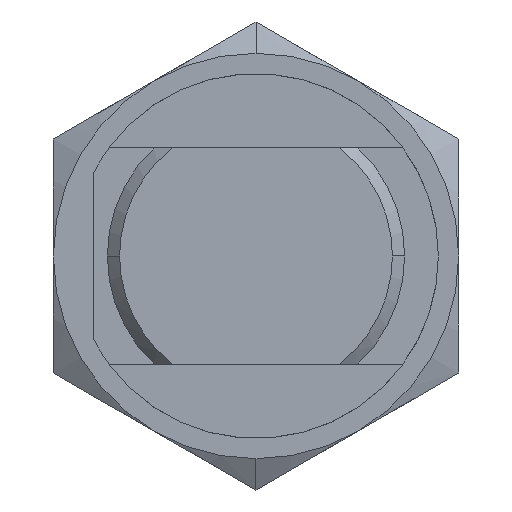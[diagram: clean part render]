
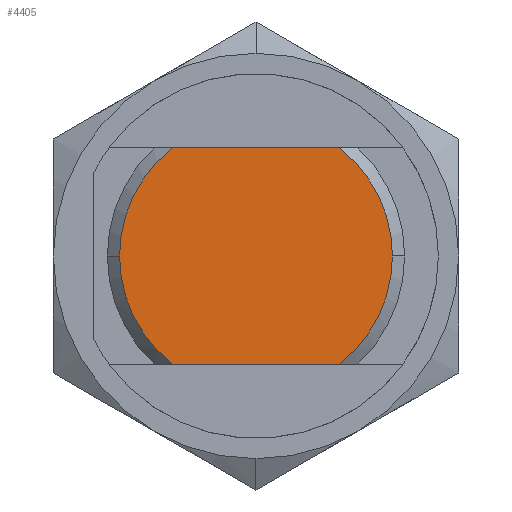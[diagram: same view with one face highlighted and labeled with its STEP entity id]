
A CAD part, front view. The second image highlights one B-rep face of the part: STEP entity #4405.
In plain terms, the highlighted planar face has unit normal (0, -1, 0).
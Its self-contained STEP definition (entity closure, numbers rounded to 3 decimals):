
#3525=CARTESIAN_POINT('',(10.1,0.0,0.));
#3526=VERTEX_POINT('',#3525);
#3533=CARTESIAN_POINT('',(6.165,0.,-8.0));
#3534=VERTEX_POINT('',#3533);
#3535=CARTESIAN_POINT('',(0.0,0.0,0.0));
#3536=DIRECTION('',(0.0,1.0,0.0));
#3537=DIRECTION('',(1.0,0.0,0.0));
#3538=AXIS2_PLACEMENT_3D('',#3535,#3536,#3537);
#3539=CIRCLE('',#3538,10.1);
#3540=EDGE_CURVE('',#3526,#3534,#3539,.T.);
#3614=CARTESIAN_POINT('',(-10.1,0.0,0.));
#3615=VERTEX_POINT('',#3614);
#3622=CARTESIAN_POINT('',(-6.165,0.,8.0));
#3623=VERTEX_POINT('',#3622);
#3624=CARTESIAN_POINT('',(0.0,0.0,0.0));
#3625=DIRECTION('',(0.0,1.0,0.0));
#3626=DIRECTION('',(-1.0,0.0,0.0));
#3627=AXIS2_PLACEMENT_3D('',#3624,#3625,#3626);
#3628=CIRCLE('',#3627,10.1);
#3629=EDGE_CURVE('',#3615,#3623,#3628,.T.);
#3663=CARTESIAN_POINT('',(-6.165,0.,-8.0));
#3664=VERTEX_POINT('',#3663);
#3678=CARTESIAN_POINT('',(0.0,0.0,0.0));
#3679=DIRECTION('',(0.0,1.0,0.0));
#3680=DIRECTION('',(-1.0,0.0,0.0));
#3681=AXIS2_PLACEMENT_3D('',#3678,#3679,#3680);
#3682=CIRCLE('',#3681,10.1);
#3683=EDGE_CURVE('',#3664,#3615,#3682,.T.);
#3719=CARTESIAN_POINT('',(6.165,0.,8.0));
#3720=VERTEX_POINT('',#3719);
#3721=CARTESIAN_POINT('',(6.165,0.,8.0));
#3722=DIRECTION('',(-1.0,0.0,0.0));
#3723=VECTOR('',#3722,12.33);
#3724=LINE('',#3721,#3723);
#3725=EDGE_CURVE('',#3720,#3623,#3724,.T.);
#3783=CARTESIAN_POINT('',(0.0,0.0,0.0));
#3784=DIRECTION('',(0.0,1.0,0.0));
#3785=DIRECTION('',(1.0,0.0,0.0));
#3786=AXIS2_PLACEMENT_3D('',#3783,#3784,#3785);
#3787=CIRCLE('',#3786,10.1);
#3788=EDGE_CURVE('',#3720,#3526,#3787,.T.);
#3865=CARTESIAN_POINT('',(-6.165,0.,-8.0));
#3866=DIRECTION('',(1.0,0.0,0.0));
#3867=VECTOR('',#3866,12.33);
#3868=LINE('',#3865,#3867);
#3869=EDGE_CURVE('',#3664,#3534,#3868,.T.);
#4392=CARTESIAN_POINT('',(-5.5,0.,0.0));
#4393=DIRECTION('',(0.0,-1.0,0.0));
#4394=DIRECTION('',(0.0,0.0,-1.0));
#4395=AXIS2_PLACEMENT_3D('',#4392,#4393,#4394);
#4396=PLANE('',#4395);
#4397=ORIENTED_EDGE('',*,*,#3683,.F.);
#4398=ORIENTED_EDGE('',*,*,#3869,.T.);
#4399=ORIENTED_EDGE('',*,*,#3540,.F.);
#4400=ORIENTED_EDGE('',*,*,#3788,.F.);
#4401=ORIENTED_EDGE('',*,*,#3725,.T.);
#4402=ORIENTED_EDGE('',*,*,#3629,.F.);
#4403=EDGE_LOOP('',(#4397,#4398,#4399,#4400,#4401,#4402));
#4404=FACE_OUTER_BOUND('',#4403,.T.);
#4405=ADVANCED_FACE('',(#4404),#4396,.T.);
